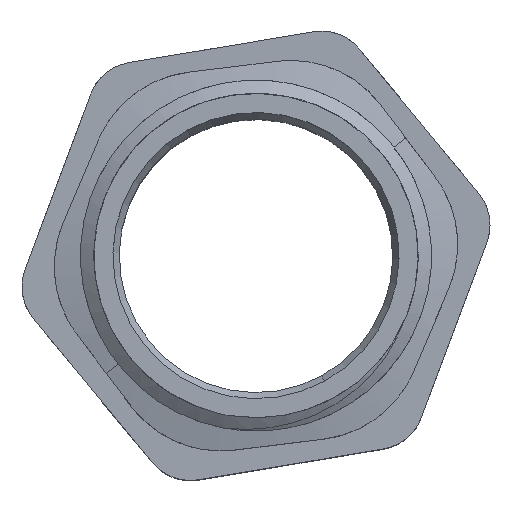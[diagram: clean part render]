
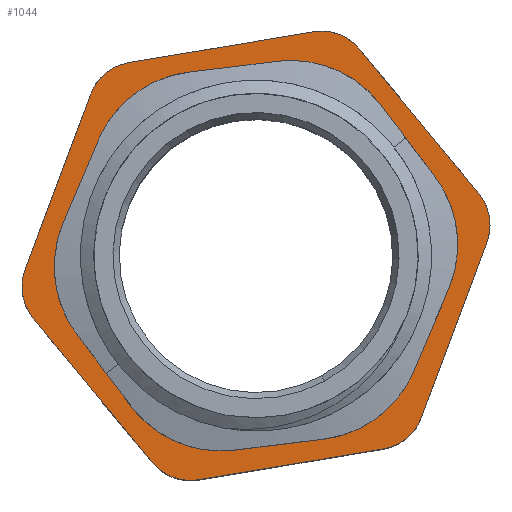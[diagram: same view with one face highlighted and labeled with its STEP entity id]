
A CAD part, top view. The second image highlights one B-rep face of the part: STEP entity #1044.
In plain terms, the highlighted planar face has unit normal (0, 0, 1).
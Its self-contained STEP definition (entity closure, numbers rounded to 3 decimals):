
#633=CARTESIAN_POINT('Line Origine',(11.574,9.541,-9.)) ;
#637=CARTESIAN_POINT('Vertex',(15.798,4.418,-9.)) ;
#639=CARTESIAN_POINT('Vertex',(7.351,14.664,-9.)) ;
#669=CARTESIAN_POINT('Vertex',(16.375,0.966,-9.)) ;
#672=CARTESIAN_POINT('Axis2P3D Location',(13.097,2.192,-9.)) ;
#689=CARTESIAN_POINT('Line Origine',(14.05,-5.253,-9.)) ;
#693=CARTESIAN_POINT('Vertex',(11.725,-11.472,-9.)) ;
#717=CARTESIAN_POINT('Vertex',(9.024,-13.698,-9.)) ;
#720=CARTESIAN_POINT('Axis2P3D Location',(8.447,-10.246,-9.)) ;
#737=CARTESIAN_POINT('Line Origine',(2.476,-14.794,-9.)) ;
#741=CARTESIAN_POINT('Vertex',(-4.073,-15.89,-9.)) ;
#765=CARTESIAN_POINT('Vertex',(-7.351,-14.664,-9.)) ;
#768=CARTESIAN_POINT('Axis2P3D Location',(-4.65,-12.438,-9.)) ;
#785=CARTESIAN_POINT('Line Origine',(-11.574,-9.541,-9.)) ;
#789=CARTESIAN_POINT('Vertex',(-15.798,-4.418,-9.)) ;
#814=CARTESIAN_POINT('Vertex',(-16.375,-0.966,-9.)) ;
#817=CARTESIAN_POINT('Axis2P3D Location',(-13.097,-2.192,-9.)) ;
#834=CARTESIAN_POINT('Line Origine',(-14.05,5.253,-9.)) ;
#838=CARTESIAN_POINT('Vertex',(-11.725,11.472,-9.)) ;
#862=CARTESIAN_POINT('Vertex',(-9.024,13.698,-9.)) ;
#865=CARTESIAN_POINT('Axis2P3D Location',(-8.447,10.246,-9.)) ;
#882=CARTESIAN_POINT('Line Origine',(-2.476,14.794,-9.)) ;
#886=CARTESIAN_POINT('Vertex',(4.073,15.89,-9.)) ;
#906=CARTESIAN_POINT('Axis2P3D Location',(4.65,12.438,-9.)) ;
#1007=CARTESIAN_POINT('Axis2P3D Location',(0.,-19.082,-9.)) ;
#1026=CARTESIAN_POINT('Axis2P3D Location',(0.,0.,-9.)) ;
#1030=CARTESIAN_POINT('Vertex',(5.513,-10.092,-9.)) ;
#1032=CARTESIAN_POINT('Vertex',(-5.513,10.092,-9.)) ;
#1035=CARTESIAN_POINT('Axis2P3D Location',(0.,0.,-9.)) ;
#634=DIRECTION('Vector Direction',(-0.636,0.772,0.)) ;
#673=DIRECTION('Axis2P3D Direction',(0.,0.,-1.)) ;
#690=DIRECTION('Vector Direction',(0.35,0.937,0.)) ;
#721=DIRECTION('Axis2P3D Direction',(0.,0.,-1.)) ;
#738=DIRECTION('Vector Direction',(0.986,0.165,0.)) ;
#769=DIRECTION('Axis2P3D Direction',(-0.,0.,-1.)) ;
#786=DIRECTION('Vector Direction',(0.636,-0.772,0.)) ;
#818=DIRECTION('Axis2P3D Direction',(0.,0.,-1.)) ;
#835=DIRECTION('Vector Direction',(-0.35,-0.937,0.)) ;
#866=DIRECTION('Axis2P3D Direction',(0.,0.,-1.)) ;
#883=DIRECTION('Vector Direction',(-0.986,-0.165,0.)) ;
#907=DIRECTION('Axis2P3D Direction',(0.,0.,-1.)) ;
#1008=DIRECTION('Axis2P3D Direction',(0.,0.,-1.)) ;
#1009=DIRECTION('Axis2P3D XDirection',(0.,1.,0.)) ;
#1027=DIRECTION('Axis2P3D Direction',(0.,0.,-1.)) ;
#1036=DIRECTION('Axis2P3D Direction',(0.,0.,-1.)) ;
#674=AXIS2_PLACEMENT_3D('Circle Axis2P3D',#672,#673,$) ;
#722=AXIS2_PLACEMENT_3D('Circle Axis2P3D',#720,#721,$) ;
#770=AXIS2_PLACEMENT_3D('Circle Axis2P3D',#768,#769,$) ;
#819=AXIS2_PLACEMENT_3D('Circle Axis2P3D',#817,#818,$) ;
#867=AXIS2_PLACEMENT_3D('Circle Axis2P3D',#865,#866,$) ;
#908=AXIS2_PLACEMENT_3D('Circle Axis2P3D',#906,#907,$) ;
#1010=AXIS2_PLACEMENT_3D('Plane Axis2P3D',#1007,#1008,#1009) ;
#1028=AXIS2_PLACEMENT_3D('Circle Axis2P3D',#1026,#1027,$) ;
#1037=AXIS2_PLACEMENT_3D('Circle Axis2P3D',#1035,#1036,$) ;
#1013=ORIENTED_EDGE('',*,*,#743,.T.) ;
#1014=ORIENTED_EDGE('',*,*,#724,.F.) ;
#1015=ORIENTED_EDGE('',*,*,#695,.T.) ;
#1016=ORIENTED_EDGE('',*,*,#676,.F.) ;
#1017=ORIENTED_EDGE('',*,*,#641,.T.) ;
#1018=ORIENTED_EDGE('',*,*,#910,.F.) ;
#1019=ORIENTED_EDGE('',*,*,#888,.T.) ;
#1020=ORIENTED_EDGE('',*,*,#869,.F.) ;
#1021=ORIENTED_EDGE('',*,*,#840,.T.) ;
#1022=ORIENTED_EDGE('',*,*,#821,.F.) ;
#1023=ORIENTED_EDGE('',*,*,#791,.T.) ;
#1024=ORIENTED_EDGE('',*,*,#772,.F.) ;
#1041=ORIENTED_EDGE('',*,*,#1034,.T.) ;
#1042=ORIENTED_EDGE('',*,*,#1039,.T.) ;
#1043=FACE_BOUND('',#1040,.T.) ;
#635=VECTOR('Line Direction',#634,1.) ;
#691=VECTOR('Line Direction',#690,1.) ;
#739=VECTOR('Line Direction',#738,1.) ;
#787=VECTOR('Line Direction',#786,1.) ;
#836=VECTOR('Line Direction',#835,1.) ;
#884=VECTOR('Line Direction',#883,1.) ;
#1044=ADVANCED_FACE('22222222222222222222222222',(#1025,#1043),#1011,.F.) ;
#675=CIRCLE('generated circle',#674,3.5) ;
#723=CIRCLE('generated circle',#722,3.5) ;
#771=CIRCLE('generated circle',#770,3.5) ;
#820=CIRCLE('generated circle',#819,3.5) ;
#868=CIRCLE('generated circle',#867,3.5) ;
#909=CIRCLE('generated circle',#908,3.5) ;
#1029=CIRCLE('generated circle',#1028,11.5) ;
#1038=CIRCLE('generated circle',#1037,11.5) ;
#641=EDGE_CURVE('',#638,#640,#636,.T.) ;
#676=EDGE_CURVE('',#638,#670,#675,.T.) ;
#695=EDGE_CURVE('',#694,#670,#692,.T.) ;
#724=EDGE_CURVE('',#694,#718,#723,.T.) ;
#743=EDGE_CURVE('',#742,#718,#740,.T.) ;
#772=EDGE_CURVE('',#742,#766,#771,.T.) ;
#791=EDGE_CURVE('',#790,#766,#788,.T.) ;
#821=EDGE_CURVE('',#790,#815,#820,.T.) ;
#840=EDGE_CURVE('',#839,#815,#837,.T.) ;
#869=EDGE_CURVE('',#839,#863,#868,.T.) ;
#888=EDGE_CURVE('',#887,#863,#885,.T.) ;
#910=EDGE_CURVE('',#887,#640,#909,.T.) ;
#1034=EDGE_CURVE('',#1031,#1033,#1029,.T.) ;
#1039=EDGE_CURVE('',#1033,#1031,#1038,.T.) ;
#1012=EDGE_LOOP('',(#1013,#1014,#1015,#1016,#1017,#1018,#1019,#1020,#1021,#1022,#1023,#1024)) ;
#1040=EDGE_LOOP('',(#1041,#1042)) ;
#1025=FACE_OUTER_BOUND('',#1012,.T.) ;
#636=LINE('Line',#633,#635) ;
#692=LINE('Line',#689,#691) ;
#740=LINE('Line',#737,#739) ;
#788=LINE('Line',#785,#787) ;
#837=LINE('Line',#834,#836) ;
#885=LINE('Line',#882,#884) ;
#1011=PLANE('',#1010) ;
#638=VERTEX_POINT('',#637) ;
#640=VERTEX_POINT('',#639) ;
#670=VERTEX_POINT('',#669) ;
#694=VERTEX_POINT('',#693) ;
#718=VERTEX_POINT('',#717) ;
#742=VERTEX_POINT('',#741) ;
#766=VERTEX_POINT('',#765) ;
#790=VERTEX_POINT('',#789) ;
#815=VERTEX_POINT('',#814) ;
#839=VERTEX_POINT('',#838) ;
#863=VERTEX_POINT('',#862) ;
#887=VERTEX_POINT('',#886) ;
#1031=VERTEX_POINT('',#1030) ;
#1033=VERTEX_POINT('',#1032) ;
